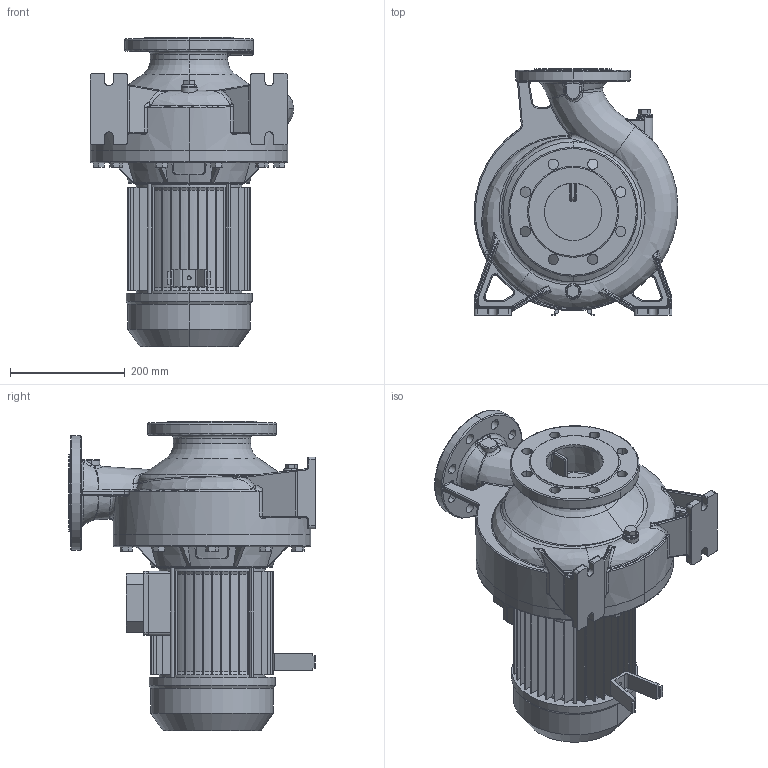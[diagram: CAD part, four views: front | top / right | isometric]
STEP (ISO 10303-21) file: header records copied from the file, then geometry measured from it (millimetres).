
FILE_DESCRIPTION((''),'2;1');
FILE_NAME('3M4_80-200_4_ASM','2009-12-04T',('Utente'),('"Ebara Pumps Europe +39.444.706811"'),'PRO/ENGINEER BY PARAMETRIC TECHNOLOGY CORPORATION, 2008400','PRO/ENGINEER BY PARAMETRIC TECHNOLOGY CORPORATION, 2008400','');
FILE_SCHEMA(('AUTOMOTIVE_DESIGN { 1 0 10303 214 1 1 1 1 }'));
Length unit declared in the file: millimetre
Products named in the file (5): CORPO_POMPA_80-200; SUPPORTO_3M_266_112; MEC_112_5; SOSTEGNO_72075; 3M4_80-200_4_ASM
Assembly tree (4 placements, depth 2):
  3M4_80-200_4_ASM
    CORPO_POMPA_80-200
    SUPPORTO_3M_266_112
    MEC_112_5
    SOSTEGNO_72075
Bounding box: 355.32 x 430 x 540 mm (x, y, z)
Volume: 18671476.7 mm3; surface area: 1497262.4 mm2
Topology: 4 solids, 4 shells, 1236 faces, 3001 edges, 1808 vertices
Faces by surface type: plane 495, cylinder 322, bspline 188, torus 117, cone 90, sphere 24
Entity records: 46922 total; most frequent: CARTESIAN_POINT 19090, ORIENTED_EDGE 6002, DIRECTION 5513, EDGE_CURVE 3001, AXIS2_PLACEMENT_3D 2110, VERTEX_POINT 1808, EDGE_LOOP 1311, VECTOR 1293
